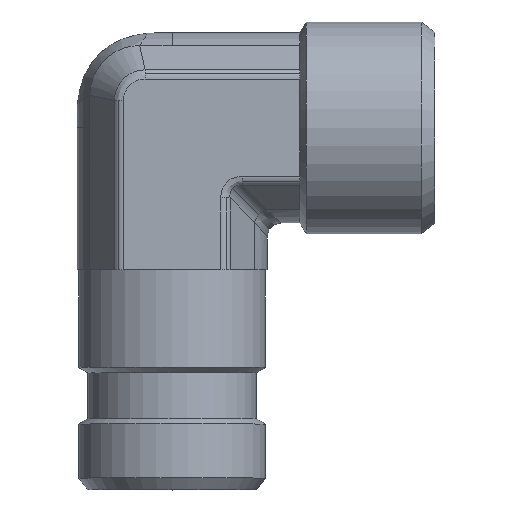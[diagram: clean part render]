
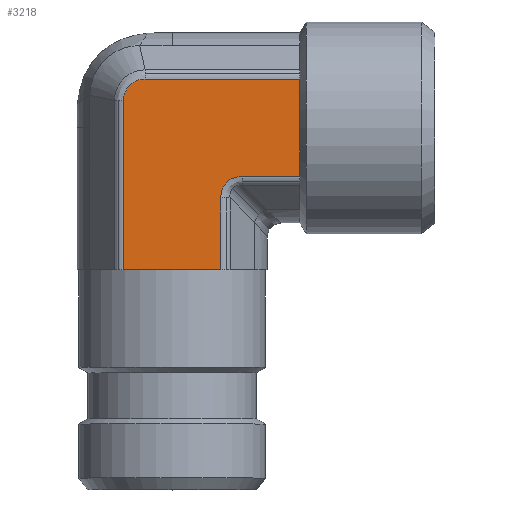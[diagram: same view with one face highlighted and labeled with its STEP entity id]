
A CAD part, top view. The second image highlights one B-rep face of the part: STEP entity #3218.
In plain terms, the highlighted planar face has unit normal (0, 0, 1) as drawn and (0, -1, 0) by its records, which use the part's own axes.
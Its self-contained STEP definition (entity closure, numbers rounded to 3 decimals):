
#361=CARTESIAN_POINT('',(5.387,-13.375,6.856));
#362=VERTEX_POINT('',#361);
#370=CARTESIAN_POINT('',(15.5,-13.375,6.856));
#371=VERTEX_POINT('',#370);
#372=CARTESIAN_POINT('',(5.387,-13.375,6.856));
#373=DIRECTION('',(1.0,0.0,0.0));
#374=VECTOR('',#373,10.113);
#375=LINE('',#372,#374);
#376=EDGE_CURVE('',#362,#371,#375,.T.);
#485=CARTESIAN_POINT('',(-11.356,-13.375,-3.819));
#486=VERTEX_POINT('',#485);
#494=CARTESIAN_POINT('',(-11.356,-13.375,18.0));
#495=VERTEX_POINT('',#494);
#496=CARTESIAN_POINT('',(-11.356,-13.375,-3.819));
#497=DIRECTION('',(0.0,0.0,1.0));
#498=VECTOR('',#497,21.819);
#499=LINE('',#496,#498);
#500=EDGE_CURVE('',#486,#495,#499,.T.);
#2069=CARTESIAN_POINT('',(-4.5,-13.375,18.0));
#2070=VERTEX_POINT('',#2069);
#2135=CARTESIAN_POINT('',(-4.5,-13.375,18.0));
#2136=DIRECTION('',(-1.0,0.0,0.0));
#2137=VECTOR('',#2136,6.856);
#2138=LINE('',#2135,#2137);
#2139=EDGE_CURVE('',#2070,#495,#2138,.T.);
#2204=CARTESIAN_POINT('',(2.356,-13.375,18.0));
#2205=VERTEX_POINT('',#2204);
#2206=CARTESIAN_POINT('',(2.356,-13.375,18.0));
#2207=DIRECTION('',(-1.0,0.0,0.0));
#2208=VECTOR('',#2207,6.856);
#2209=LINE('',#2206,#2208);
#2210=EDGE_CURVE('',#2205,#2070,#2209,.T.);
#2832=CARTESIAN_POINT('',(-8.319,-13.375,-6.856));
#2833=VERTEX_POINT('',#2832);
#2841=CARTESIAN_POINT('',(-11.356,-13.375,-3.819));
#2842=CARTESIAN_POINT('',(-11.356,-13.375,-4.016));
#2843=CARTESIAN_POINT('',(-11.336,-13.375,-4.216));
#2844=CARTESIAN_POINT('',(-11.235,-13.375,-4.725));
#2845=CARTESIAN_POINT('',(-11.123,-13.375,-5.025));
#2846=CARTESIAN_POINT('',(-10.717,-13.375,-5.748));
#2847=CARTESIAN_POINT('',(-10.355,-13.375,-6.127));
#2848=CARTESIAN_POINT('',(-9.441,-13.375,-6.697));
#2849=CARTESIAN_POINT('',(-8.88,-13.375,-6.856));
#2850=CARTESIAN_POINT('',(-8.319,-13.375,-6.856));
#2851=B_SPLINE_CURVE_WITH_KNOTS('',3,(#2841,#2842,#2843,#2844,#2845,#2846,#2847,#2848,#2849,#2850),.UNSPECIFIED.,.F.,.U.,(4,2,2,2,4),(-4.746,-4.152,-3.203,-1.685,0.0),.UNSPECIFIED.);
#2852=EDGE_CURVE('',#2833,#486,#2851,.F.);
#2878=CARTESIAN_POINT('',(15.5,-13.375,-6.856));
#2879=VERTEX_POINT('',#2878);
#2887=CARTESIAN_POINT('',(15.5,-13.375,-6.856));
#2888=DIRECTION('',(-1.0,0.0,0.0));
#2889=VECTOR('',#2888,23.819);
#2890=LINE('',#2887,#2889);
#2891=EDGE_CURVE('',#2879,#2833,#2890,.T.);
#3023=CARTESIAN_POINT('',(2.356,-13.375,9.887));
#3024=VERTEX_POINT('',#3023);
#3025=CARTESIAN_POINT('',(2.356,-13.375,18.0));
#3026=DIRECTION('',(0.0,0.0,-1.0));
#3027=VECTOR('',#3026,8.113);
#3028=LINE('',#3025,#3027);
#3029=EDGE_CURVE('',#2205,#3024,#3028,.T.);
#3162=CARTESIAN_POINT('',(6.397,-13.375,10.897));
#3163=DIRECTION('',(0.,-1.0,0.));
#3164=DIRECTION('',(-0.707,0.,-0.707));
#3165=AXIS2_PLACEMENT_3D('',#3162,#3163,#3164);
#3166=ELLIPSE('',#3165,4.518,3.5);
#3167=EDGE_CURVE('',#3024,#362,#3166,.T.);
#3197=CARTESIAN_POINT('',(-4.5,-13.375,-3.175));
#3198=DIRECTION('',(0.0,-1.0,0.0));
#3199=DIRECTION('',(0.0,0.0,-1.0));
#3200=AXIS2_PLACEMENT_3D('',#3197,#3198,#3199);
#3201=PLANE('',#3200);
#3202=ORIENTED_EDGE('',*,*,#2891,.F.);
#3203=CARTESIAN_POINT('',(15.5,-13.375,-6.856));
#3204=DIRECTION('',(0.0,0.0,1.0));
#3205=VECTOR('',#3204,13.712);
#3206=LINE('',#3203,#3205);
#3207=EDGE_CURVE('',#2879,#371,#3206,.T.);
#3208=ORIENTED_EDGE('',*,*,#3207,.T.);
#3209=ORIENTED_EDGE('',*,*,#376,.F.);
#3210=ORIENTED_EDGE('',*,*,#3167,.F.);
#3211=ORIENTED_EDGE('',*,*,#3029,.F.);
#3212=ORIENTED_EDGE('',*,*,#2210,.T.);
#3213=ORIENTED_EDGE('',*,*,#2139,.T.);
#3214=ORIENTED_EDGE('',*,*,#500,.F.);
#3215=ORIENTED_EDGE('',*,*,#2852,.F.);
#3216=EDGE_LOOP('',(#3202,#3208,#3209,#3210,#3211,#3212,#3213,#3214,#3215));
#3217=FACE_OUTER_BOUND('',#3216,.T.);
#3218=ADVANCED_FACE('',(#3217),#3201,.T.);
